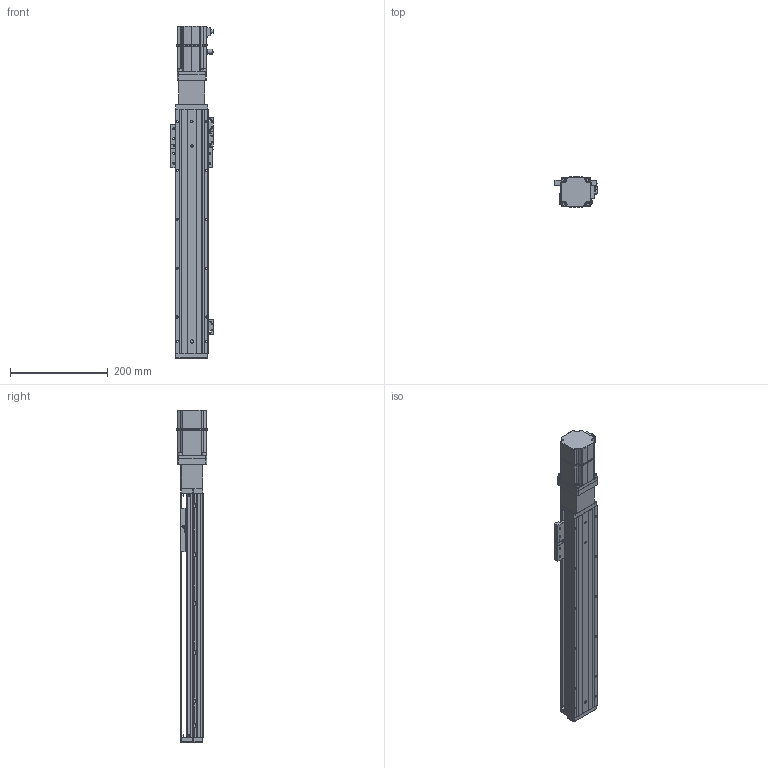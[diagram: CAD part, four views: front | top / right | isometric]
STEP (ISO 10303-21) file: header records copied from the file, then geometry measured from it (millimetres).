
FILE_DESCRIPTION (( 'STEP AP203' ), '1' );
FILE_NAME ('KTHAL60-350-BC-M20-C4L.step', '2022-12-16T01:58:07', ( '微软用户' ), ( '微软中国' ), 'SwSTEP 2.0', 'SolidWorks 2020', '' );
FILE_SCHEMA (( 'CONFIG_CONTROL_DESIGN' ));
Length unit declared in the file: millimetre
Products named in the file (18): KTHA60-004; GBT 70.1-M4×16; _X2_4E0983F1_X0_200W_1; KTHA60-005; GBT77-2000M3-3; KTHAL60-350-BC-M20-C4L; GB¨uT 70.2-M3¡Á5_M3¡Á6; GBT 70.1-M3℅6; GBT 70.3-M3℅6; CTHA60-016; EE_SX911P_R; CTHA60-027; KTHA60-001_500; CTHA60-017; CTHA60-013; KTHLA60-002; CTHA60-021; CTHA60-006-3_M20B
Assembly tree (48 placements, depth 2):
  KTHAL60-350-BC-M20-C4L
    KTHA60-001_500
    KTHLA60-002
    KTHA60-004
    KTHA60-005
    GB¨uT 70.2-M3¡Á5_M3¡Á6  x5
    GBT 70.3-M3℅6  x6
    EE_SX911P_R  x3
    CTHA60-017  x3
    CTHA60-021  x2
    GBT 70.1-M4×16  x8
    GBT77-2000M3-3  x6
    GBT 70.1-M3℅6  x6
    CTHA60-016
    CTHA60-027
    CTHA60-013
    CTHA60-006-3_M20B
    _X2_4E0983F1_X0_200W_1
Bounding box: 87.82 x 62.42 x 679.7 mm (x, y, z)
Volume: 1423539.5 mm3; surface area: 332218.4 mm2
Topology: 51 solids, 51 shells, 2286 faces, 5411 edges, 3313 vertices
Faces by surface type: plane 1237, cylinder 597, cone 291, torus 78, bspline 69, sphere 14
Entity records: 41127 total; most frequent: CARTESIAN_POINT 7942, DIRECTION 6458, ORIENTED_EDGE 6218, EDGE_CURVE 3109, AXIS2_PLACEMENT_3D 2221, LINE 2016, VECTOR 2016, VERTEX_POINT 1935
